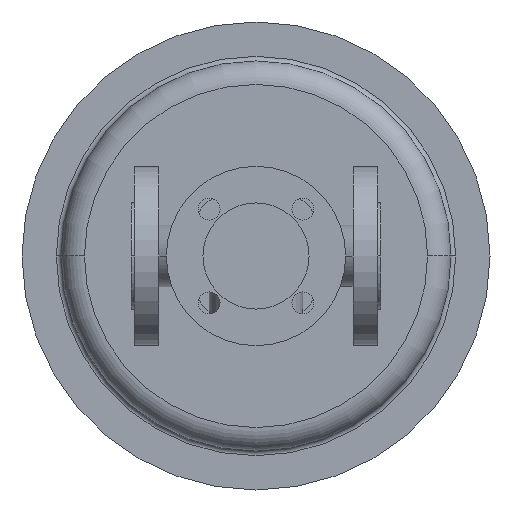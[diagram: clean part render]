
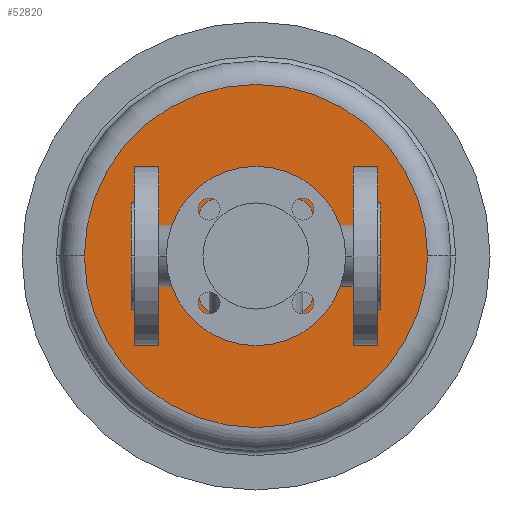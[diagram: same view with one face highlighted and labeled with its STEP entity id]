
A CAD part, front view. The second image highlights one B-rep face of the part: STEP entity #52820.
In plain terms, the highlighted planar face has unit normal (0, -1, 0).
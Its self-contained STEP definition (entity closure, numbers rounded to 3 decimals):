
#39140=CARTESIAN_POINT('',(-30.,360.,0.));
#39150=VERTEX_POINT('',#39140);
#39250=CARTESIAN_POINT('',(190.,360.,0.));
#39260=VERTEX_POINT('',#39250);
#39290=CARTESIAN_POINT('',(80.,360.,0.));
#39300=DIRECTION('',(0.,1.,0.));
#39310=DIRECTION('',(1.,0.,0.));
#39320=AXIS2_PLACEMENT_3D('',#39290,#39300,#39310);
#39330=CIRCLE('',#39320,110.);
#39340=CARTESIAN_POINT('',(80.,360.,110.));
#39350=VERTEX_POINT('',#39340);
#39360=EDGE_CURVE('',#39350,#39260,#39330,.T.);
#39380=EDGE_CURVE('',#39150,#39350,#39330,.T.);
#39960=CARTESIAN_POINT('',(115.,360.,0.));
#39970=VERTEX_POINT('',#39960);
#40000=CARTESIAN_POINT('',(130.,360.,0.));
#40010=DIRECTION('',(0.,1.,0.));
#40020=DIRECTION('',(1.,0.,0.));
#40030=AXIS2_PLACEMENT_3D('',#40000,#40010,#40020);
#40040=CIRCLE('',#40030,15.);
#40050=CARTESIAN_POINT('',(145.,360.,0.));
#40060=VERTEX_POINT('',#40050);
#40070=EDGE_CURVE('',#39970,#40060,#40040,.T.);
#40380=CARTESIAN_POINT('',(45.,360.,0.));
#40390=VERTEX_POINT('',#40380);
#40420=CARTESIAN_POINT('',(30.,360.,0.));
#40430=DIRECTION('',(0.,1.,0.));
#40440=DIRECTION('',(1.,0.,0.));
#40450=AXIS2_PLACEMENT_3D('',#40420,#40430,#40440);
#40460=CIRCLE('',#40450,15.);
#40470=CARTESIAN_POINT('',(15.,360.,0.));
#40480=VERTEX_POINT('',#40470);
#40490=EDGE_CURVE('',#40390,#40480,#40460,.T.);
#40780=CARTESIAN_POINT('',(61.55,360.,0.));
#40790=VERTEX_POINT('',#40780);
#40970=CARTESIAN_POINT('',(98.45,360.,0.));
#40980=VERTEX_POINT('',#40970);
#41010=CARTESIAN_POINT('',(80.,360.,0.));
#41020=DIRECTION('',(0.,1.,0.));
#41030=DIRECTION('',(1.,0.,0.));
#41040=AXIS2_PLACEMENT_3D('',#41010,#41020,#41030);
#41050=CIRCLE('',#41040,18.45);
#41060=EDGE_CURVE('',#40980,#40790,#41050,.T.);
#52560=CARTESIAN_POINT('',(135.,360.,0.));
#52570=DIRECTION('',(0.,-1.,0.));
#52580=DIRECTION('',(-1.,0.,0.));
#52590=AXIS2_PLACEMENT_3D('',#52560,#52570,#52580);
#52600=PLANE('',#52590);
#52610=EDGE_CURVE('',#40790,#40980,#41050,.T.);
#52620=ORIENTED_EDGE('',*,*,#52610,.T.);
#52630=ORIENTED_EDGE('',*,*,#41060,.T.);
#52640=EDGE_LOOP('',(#52630,#52620));
#52650=FACE_BOUND('',#52640,.T.);
#52660=EDGE_CURVE('',#40480,#40390,#40460,.T.);
#52670=ORIENTED_EDGE('',*,*,#52660,.T.);
#52680=ORIENTED_EDGE('',*,*,#40490,.T.);
#52690=EDGE_LOOP('',(#52680,#52670));
#52700=FACE_BOUND('',#52690,.T.);
#52710=EDGE_CURVE('',#40060,#39970,#40040,.T.);
#52720=ORIENTED_EDGE('',*,*,#52710,.T.);
#52730=ORIENTED_EDGE('',*,*,#40070,.T.);
#52740=EDGE_LOOP('',(#52730,#52720));
#52750=FACE_BOUND('',#52740,.T.);
#52760=ORIENTED_EDGE('',*,*,#39360,.F.);
#52770=EDGE_CURVE('',#39260,#39150,#39330,.T.);
#52780=ORIENTED_EDGE('',*,*,#52770,.F.);
#52790=ORIENTED_EDGE('',*,*,#39380,.F.);
#52800=EDGE_LOOP('',(#52790,#52780,#52760));
#52810=FACE_OUTER_BOUND('',#52800,.T.);
#52820=ADVANCED_FACE('',(#52650,#52700,#52750,#52810),#52600,.T.);
